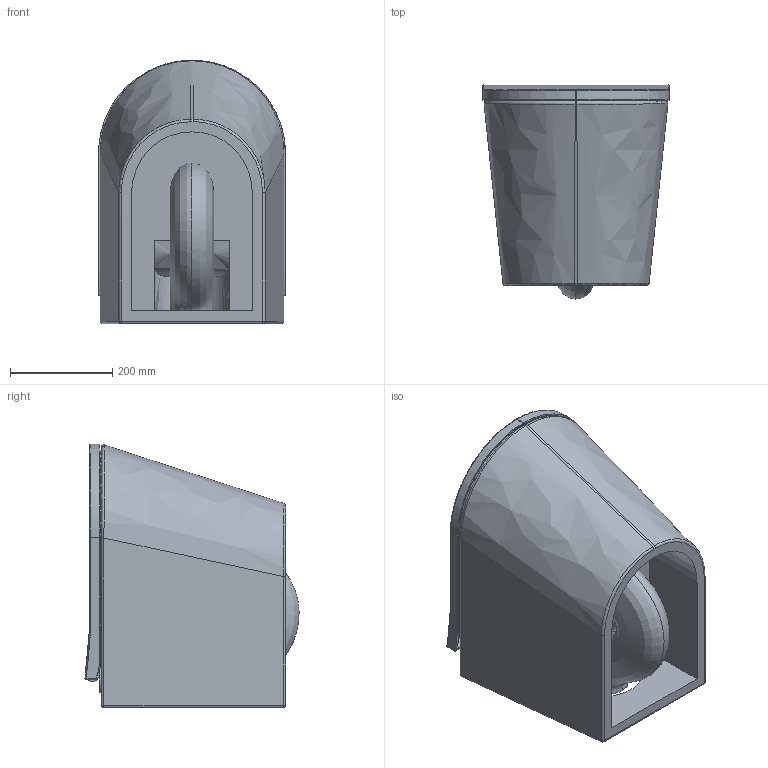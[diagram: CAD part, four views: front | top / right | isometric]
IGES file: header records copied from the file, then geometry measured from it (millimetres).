
Global section: file name: 72cfccca-f70a-44dc-9af3-874a55861389.zip; native system: unknown; preprocessor: unknown; author: unknown; organization: unknown; date: 20191206.062749; units: millimetre
Bounding box: 365 x 418.12 x 514.5 mm (x, y, z)
Volume: 26726998.8 mm3; surface area: 1940587.8 mm2
Topology: 5 solids, 5 shells, 395 faces, 951 edges, 578 vertices
Faces by surface type: bspline 395
